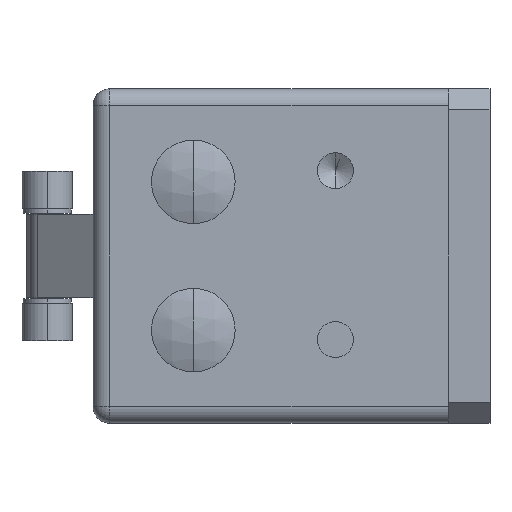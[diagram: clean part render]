
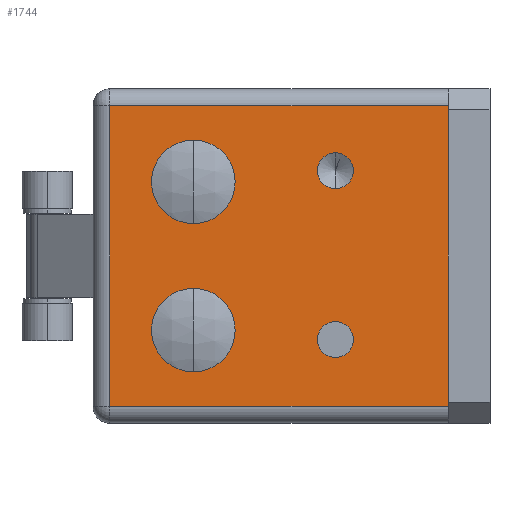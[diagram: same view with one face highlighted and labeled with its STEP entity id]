
A CAD part, left-side view. The second image highlights one B-rep face of the part: STEP entity #1744.
In plain terms, the highlighted planar face has unit normal (-1, 0, 0).
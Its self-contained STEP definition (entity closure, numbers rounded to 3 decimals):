
#452 = EDGE_LOOP ( 'NONE', ( #454, #617 ) ) ;
#454 = ORIENTED_EDGE ( 'NONE', *, *, #792, .F. ) ;
#455 = ORIENTED_EDGE ( 'NONE', *, *, #799, .F. ) ;
#465 = VERTEX_POINT ( 'NONE', #4061 ) ;
#466 = VERTEX_POINT ( 'NONE', #4060 ) ;
#469 = EDGE_CURVE ( 'NONE', #465, #466, #4058, .T. ) ;
#586 = EDGE_LOOP ( 'NONE', ( #611, #666, #661, #732 ) ) ;
#611 = ORIENTED_EDGE ( 'NONE', *, *, #665, .T. ) ;
#617 = ORIENTED_EDGE ( 'NONE', *, *, #618, .F. ) ;
#618 = EDGE_CURVE ( 'NONE', #793, #739, #4338, .T. ) ;
#655 = EDGE_CURVE ( 'NONE', #658, #664, #4393, .T. ) ;
#657 = ORIENTED_EDGE ( 'NONE', *, *, #744, .F. ) ;
#658 = VERTEX_POINT ( 'NONE', #4389 ) ;
#659 = ORIENTED_EDGE ( 'NONE', *, *, #727, .F. ) ;
#661 = ORIENTED_EDGE ( 'NONE', *, *, #729, .T. ) ;
#662 = VERTEX_POINT ( 'NONE', #4448 ) ;
#663 = VERTEX_POINT ( 'NONE', #4447 ) ;
#664 = VERTEX_POINT ( 'NONE', #4446 ) ;
#665 = EDGE_CURVE ( 'NONE', #664, #663, #4445, .T. ) ;
#666 = ORIENTED_EDGE ( 'NONE', *, *, #667, .T. ) ;
#667 = EDGE_CURVE ( 'NONE', #663, #662, #4441, .T. ) ;
#727 = EDGE_CURVE ( 'NONE', #798, #796, #4574, .T. ) ;
#728 = EDGE_LOOP ( 'NONE', ( #657, #659 ) ) ;
#729 = EDGE_CURVE ( 'NONE', #662, #658, #4569, .T. ) ;
#732 = ORIENTED_EDGE ( 'NONE', *, *, #655, .T. ) ;
#739 = VERTEX_POINT ( 'NONE', #4546 ) ;
#744 = EDGE_CURVE ( 'NONE', #796, #798, #4609, .T. ) ;
#761 = VERTEX_POINT ( 'NONE', #4635 ) ;
#792 = EDGE_CURVE ( 'NONE', #739, #793, #4646, .T. ) ;
#793 = VERTEX_POINT ( 'NONE', #4704 ) ;
#796 = VERTEX_POINT ( 'NONE', #4697 ) ;
#798 = VERTEX_POINT ( 'NONE', #4691 ) ;
#799 = EDGE_CURVE ( 'NONE', #761, #809, #4689, .T. ) ;
#809 = VERTEX_POINT ( 'NONE', #4721 ) ;
#1674 = EDGE_LOOP ( 'NONE', ( #1734, #1736 ) ) ;
#1724 = EDGE_CURVE ( 'NONE', #809, #761, #6350, .T. ) ;
#1728 = EDGE_LOOP ( 'NONE', ( #1740, #455 ) ) ;
#1734 = ORIENTED_EDGE ( 'NONE', *, *, #1741, .F. ) ;
#1736 = ORIENTED_EDGE ( 'NONE', *, *, #469, .F. ) ;
#1740 = ORIENTED_EDGE ( 'NONE', *, *, #1724, .F. ) ;
#1741 = EDGE_CURVE ( 'NONE', #466, #465, #6388, .T. ) ;
#1744 = ADVANCED_FACE ( 'NONE', ( #6378, #6373, #6372, #6371, #6370 ), #6369, .F. ) ;
#4054 = DIRECTION ( 'NONE',  ( 0., 0., 1. ) ) ;
#4055 = DIRECTION ( 'NONE',  ( -1., 0., 0. ) ) ;
#4056 = CARTESIAN_POINT ( 'NONE',  ( 11., 37., 60.404 ) ) ;
#4057 = AXIS2_PLACEMENT_3D ( 'NONE', #4056, #4055, #4054 ) ;
#4058 = CIRCLE ( 'NONE', #4057, 4.3 ) ;
#4060 = CARTESIAN_POINT ( 'NONE',  ( 11., 37., 64.704 ) ) ;
#4061 = CARTESIAN_POINT ( 'NONE',  ( 11., 37., 56.104 ) ) ;
#4335 = DIRECTION ( 'NONE',  ( 0., 0., -1. ) ) ;
#4336 = DIRECTION ( 'NONE',  ( -1., 0., 0. ) ) ;
#4337 = AXIS2_PLACEMENT_3D ( 'NONE', #4344, #4336, #4335 ) ;
#4338 = CIRCLE ( 'NONE', #4337, 10. ) ;
#4344 = CARTESIAN_POINT ( 'NONE',  ( 11., 71., 22.25 ) ) ;
#4389 = CARTESIAN_POINT ( 'NONE',  ( 11., 10., 76. ) ) ;
#4390 = DIRECTION ( 'NONE',  ( 0., 1., 0. ) ) ;
#4391 = VECTOR ( 'NONE', #4390, 1000. ) ;
#4392 = CARTESIAN_POINT ( 'NONE',  ( 11., 95., 76. ) ) ;
#4393 = LINE ( 'NONE', #4392, #4391 ) ;
#4438 = DIRECTION ( 'NONE',  ( 0., -1., 0. ) ) ;
#4439 = VECTOR ( 'NONE', #4438, 1000. ) ;
#4440 = CARTESIAN_POINT ( 'NONE',  ( 11., 95., 4. ) ) ;
#4441 = LINE ( 'NONE', #4440, #4439 ) ;
#4442 = DIRECTION ( 'NONE',  ( 0., 0., -1. ) ) ;
#4443 = VECTOR ( 'NONE', #4442, 1000. ) ;
#4444 = CARTESIAN_POINT ( 'NONE',  ( 11., 91., 0. ) ) ;
#4445 = LINE ( 'NONE', #4444, #4443 ) ;
#4446 = CARTESIAN_POINT ( 'NONE',  ( 11., 91., 76. ) ) ;
#4447 = CARTESIAN_POINT ( 'NONE',  ( 11., 91., 4. ) ) ;
#4448 = CARTESIAN_POINT ( 'NONE',  ( 11., 10., 4. ) ) ;
#4546 = CARTESIAN_POINT ( 'NONE',  ( 11., 71., 12.25 ) ) ;
#4566 = DIRECTION ( 'NONE',  ( 0., 0., 1. ) ) ;
#4567 = VECTOR ( 'NONE', #4566, 1000. ) ;
#4568 = CARTESIAN_POINT ( 'NONE',  ( 11., 10., 0. ) ) ;
#4569 = LINE ( 'NONE', #4568, #4567 ) ;
#4570 = DIRECTION ( 'NONE',  ( 0., 0., -1. ) ) ;
#4571 = DIRECTION ( 'NONE',  ( -1., 0., 0. ) ) ;
#4572 = CARTESIAN_POINT ( 'NONE',  ( 11., 71., 57.75 ) ) ;
#4573 = AXIS2_PLACEMENT_3D ( 'NONE', #4572, #4571, #4570 ) ;
#4574 = CIRCLE ( 'NONE', #4573, 10. ) ;
#4605 = DIRECTION ( 'NONE',  ( 0., 0., -1. ) ) ;
#4606 = DIRECTION ( 'NONE',  ( -1., 0., 0. ) ) ;
#4607 = CARTESIAN_POINT ( 'NONE',  ( 11., 71., 57.75 ) ) ;
#4608 = AXIS2_PLACEMENT_3D ( 'NONE', #4607, #4606, #4605 ) ;
#4609 = CIRCLE ( 'NONE', #4608, 10. ) ;
#4635 = CARTESIAN_POINT ( 'NONE',  ( 11., 37., 15.7 ) ) ;
#4643 = DIRECTION ( 'NONE',  ( -1., 0., 0. ) ) ;
#4644 = CARTESIAN_POINT ( 'NONE',  ( 11., 71., 22.25 ) ) ;
#4645 = AXIS2_PLACEMENT_3D ( 'NONE', #4644, #4643, #4705 ) ;
#4646 = CIRCLE ( 'NONE', #4645, 10. ) ;
#4685 = DIRECTION ( 'NONE',  ( 0., 0., 1. ) ) ;
#4686 = DIRECTION ( 'NONE',  ( -1., 0., 0. ) ) ;
#4687 = CARTESIAN_POINT ( 'NONE',  ( 11., 37., 20. ) ) ;
#4688 = AXIS2_PLACEMENT_3D ( 'NONE', #4687, #4686, #4685 ) ;
#4689 = CIRCLE ( 'NONE', #4688, 4.3 ) ;
#4691 = CARTESIAN_POINT ( 'NONE',  ( 11., 71., 67.75 ) ) ;
#4697 = CARTESIAN_POINT ( 'NONE',  ( 11., 71., 47.75 ) ) ;
#4704 = CARTESIAN_POINT ( 'NONE',  ( 11., 71., 32.25 ) ) ;
#4705 = DIRECTION ( 'NONE',  ( 0., 0., -1. ) ) ;
#4721 = CARTESIAN_POINT ( 'NONE',  ( 11., 37., 24.3 ) ) ;
#6342 = DIRECTION ( 'NONE',  ( 0., 0., 1. ) ) ;
#6343 = DIRECTION ( 'NONE',  ( -1., 0., 0. ) ) ;
#6344 = CARTESIAN_POINT ( 'NONE',  ( 11., 37., 20. ) ) ;
#6345 = AXIS2_PLACEMENT_3D ( 'NONE', #6344, #6343, #6342 ) ;
#6350 = CIRCLE ( 'NONE', #6345, 4.3 ) ;
#6365 = DIRECTION ( 'NONE',  ( 0., 0., -1. ) ) ;
#6366 = DIRECTION ( 'NONE',  ( 1., 0., 0. ) ) ;
#6367 = CARTESIAN_POINT ( 'NONE',  ( 11., 95., 0. ) ) ;
#6368 = AXIS2_PLACEMENT_3D ( 'NONE', #6367, #6366, #6365 ) ;
#6369 = PLANE ( 'NONE',  #6368 ) ;
#6370 = FACE_BOUND ( 'NONE', #728, .T. ) ;
#6371 = FACE_OUTER_BOUND ( 'NONE', #586, .T. ) ;
#6372 = FACE_BOUND ( 'NONE', #452, .T. ) ;
#6373 = FACE_BOUND ( 'NONE', #1728, .T. ) ;
#6378 = FACE_BOUND ( 'NONE', #1674, .T. ) ;
#6381 = DIRECTION ( 'NONE',  ( 0., 0., 1. ) ) ;
#6382 = DIRECTION ( 'NONE',  ( -1., 0., 0. ) ) ;
#6383 = CARTESIAN_POINT ( 'NONE',  ( 11., 37., 60.404 ) ) ;
#6384 = AXIS2_PLACEMENT_3D ( 'NONE', #6383, #6382, #6381 ) ;
#6388 = CIRCLE ( 'NONE', #6384, 4.3 ) ;
